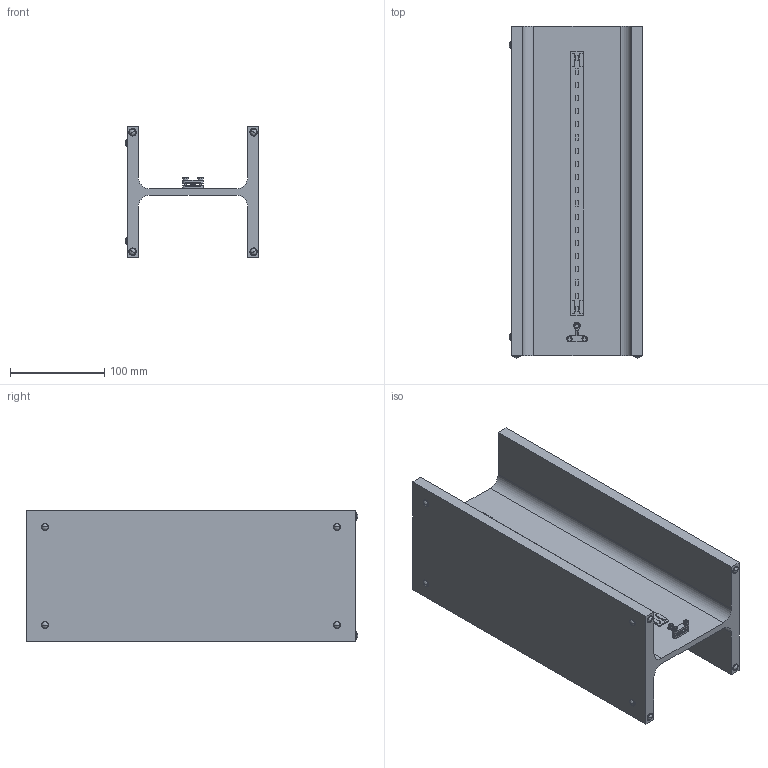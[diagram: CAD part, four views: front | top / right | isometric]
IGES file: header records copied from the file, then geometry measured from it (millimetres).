
Start section: SolidWorks IGES file using analytic representation for surfaces
Global section: file name: H:\importazione sito nemo\IMPORT GIUGNO 2016\materiali\253-MAIS PLUS QUE CELA JE NE PEUX PAS\download\3d_MAIS PLUS QUE CELA JE NE PEUX PAS.IGS; native system: SolidWorks 2016; preprocessor: SolidWorks 2016; author: gpinheiro; date: 160914.121212; units: millimetre
Bounding box: 142.2 x 352.2 x 140 mm (x, y, z)
Volume: 1510424.2 mm3; surface area: 302382.6 mm2
Topology: 17 solids, 17 shells, 444 faces, 1109 edges, 724 vertices
Faces by surface type: plane 302, revolution 142
